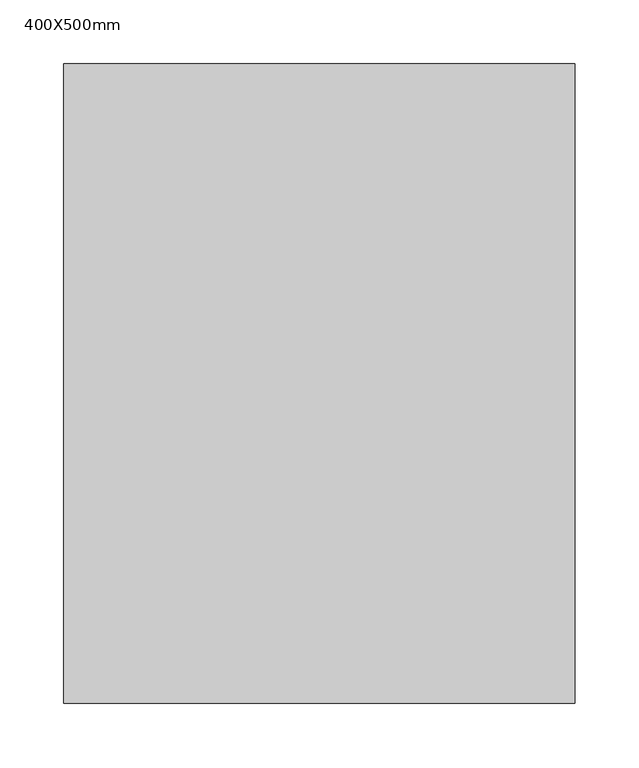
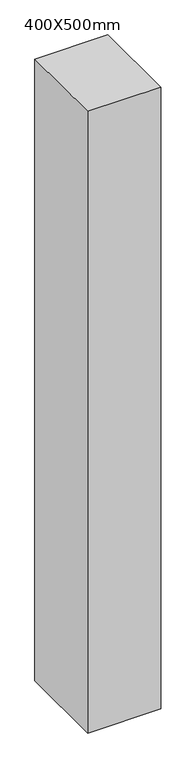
"""IFC4 building model written with IfcOpenShell, lengths in millimetres: column geometry, 混凝土 - 矩形 - 柱 : 400X500mm."""

import ifcopenshell
import ifcopenshell.guid

model = None  # the IFC model being written
_history = None  # IfcOwnerHistory: only IFC2X3 demands one
_inside = {}  # id of a spatial element -> (the spatial element, [elements in it])
_under = {}  # id of a project, library or spatial element -> (it, [spatial elements below it])
_declared = {}  # id of a project -> (the project, [libraries it declares])
_typed = {}  # id of a type object -> (the type object, [elements of that type])
_made_of = {}  # id of a material, layer set ... -> (it, [elements and type objects made of it])


def new_model(schema):
    """Start an empty IFC model of exactly this schema.

    Asked for "IFC4X3", IfcOpenShell would pick the latest addendum, in which some entities
    have other attributes; the version numbers below select the first issue.
    IFC2X3 requires an IfcOwnerHistory on every rooted entity: one is made here for all.
    """
    global model, _history
    if schema == "IFC4X3":
        model = ifcopenshell.file(schema_version=(4, 3, 0, 0))
    else:
        model = ifcopenshell.file(schema=schema)
    _inside.clear()
    _under.clear()
    _declared.clear()
    _typed.clear()
    _made_of.clear()
    _history = None
    if model.schema == "IFC2X3":
        org = make("IfcOrganization", Name="unknown")
        user = make(
            "IfcPersonAndOrganization",
            ThePerson=make("IfcPerson", FamilyName="unknown"),
            TheOrganization=org,
        )
        app = make(
            "IfcApplication",
            ApplicationDeveloper=org,
            Version="unknown",
            ApplicationFullName="unknown",
            ApplicationIdentifier="unknown",
        )
        _history = make(
            "IfcOwnerHistory",
            OwningUser=user,
            OwningApplication=app,
            ChangeAction="ADDED",
            CreationDate=0,
        )
    return model


def make(cls, **values):
    """One entity of the class cls with the attributes given. An attribute that is None is left unset."""
    return model.create_entity(
        cls, **{name: value for name, value in values.items() if value is not None}
    )


def rooted(cls, **values):
    """An entity with a GlobalId (a new one), such as an element, a storey or a relation."""
    return make(cls, GlobalId=ifcopenshell.guid.new(), OwnerHistory=_history, **values)


def si_unit(unit_type, name, prefix=None):
    """IfcSIUnit, for example si_unit("LENGTHUNIT", "METRE", prefix="MILLI")."""
    return make("IfcSIUnit", UnitType=unit_type, Prefix=prefix, Name=name)


def assignment(units):
    """IfcUnitAssignment: the units of a project."""
    return None if units is None else make("IfcUnitAssignment", Units=units)


def point(xyz):
    """IfcCartesianPoint."""
    return None if xyz is None else make("IfcCartesianPoint", Coordinates=xyz)


def direction(xyz):
    """IfcDirection."""
    return None if xyz is None else make("IfcDirection", DirectionRatios=xyz)


def frame(location, z_axis=None, x_axis=None):
    """IfcAxis2Placement3D, a coordinate frame: its origin and axes. An axis left out is left unset."""
    return make(
        "IfcAxis2Placement3D",
        Location=point(location),
        Axis=direction(z_axis),
        RefDirection=direction(x_axis),
    )


def origin():
    """The frame at (0, 0, 0) with its axes left unset."""
    return frame((0.0, 0.0, 0.0))


def origin_with_axes():
    """The frame at (0, 0, 0) with the z axis (0, 0, 1) and the x axis (1, 0, 0) written out."""
    return frame((0.0, 0.0, 0.0), z_axis=(0.0, 0.0, 1.0), x_axis=(1.0, 0.0, 0.0))


def place(relative_to, where):
    """IfcLocalPlacement: puts the frame where relative to a parent placement (None: the world)."""
    return make(
        "IfcLocalPlacement", PlacementRelTo=relative_to, RelativePlacement=where
    )


def context(
    kind, dimensions, precision=None, world=None, true_north=None, identifier=None
):
    """IfcGeometricRepresentationContext, for example the 3D "Model" context."""
    return make(
        "IfcGeometricRepresentationContext",
        ContextIdentifier=identifier,
        ContextType=kind,
        CoordinateSpaceDimension=dimensions,
        Precision=precision,
        WorldCoordinateSystem=world,
        TrueNorth=true_north,
    )


def project(units=None, contexts=None):
    """IfcProject with its units and contexts."""
    return rooted(
        "IfcProject",
        Name="project",
        RepresentationContexts=contexts,
        UnitsInContext=assignment(units),
    )


def spatial(cls, under=None, at=None, **own):
    """A site, building, storey or space (cls), placed at a placement, below another one or the project."""
    s = rooted(cls, ObjectPlacement=at, **own)
    if under is not None:
        _under.setdefault(under.id(), (under, []))[1].append(s)
    return s


def polyline(points):
    """IfcPolyline through the points."""
    return make("IfcPolyline", Points=[point(p) for p in points])


def outline(outer, holes=None, kind="AREA"):
    """IfcArbitraryClosedProfileDef: a profile drawn as a closed curve; with holes, ...WithVoids."""
    if holes is None:
        return make("IfcArbitraryClosedProfileDef", ProfileType=kind, OuterCurve=outer)
    return make(
        "IfcArbitraryProfileDefWithVoids",
        ProfileType=kind,
        OuterCurve=outer,
        InnerCurves=holes,
    )


def extrude(swept, where, along, depth):
    """IfcExtrudedAreaSolid: the profile swept, set in the frame where, extruded along a direction by depth."""
    return make(
        "IfcExtrudedAreaSolid",
        SweptArea=swept,
        Position=where,
        ExtrudedDirection=direction(along),
        Depth=depth,
    )


def shape(context_of_items, identifier, shape_type, items):
    """IfcShapeRepresentation: the items that make up one representation, for example the "Body"."""
    return make(
        "IfcShapeRepresentation",
        ContextOfItems=context_of_items,
        RepresentationIdentifier=identifier,
        RepresentationType=shape_type,
        Items=items,
    )


def source(mapping_origin, context_of_items, identifier, shape_type, items):
    """IfcRepresentationMap: a shape defined once, which mapped items show again and again."""
    return make(
        "IfcRepresentationMap",
        MappingOrigin=mapping_origin,
        MappedRepresentation=shape(context_of_items, identifier, shape_type, items),
    )


def transform(
    local_origin,
    x_axis=None,
    y_axis=None,
    z_axis=None,
    scale=None,
    scale2=None,
    scale3=None,
    uniform=True,
):
    """IfcCartesianTransformationOperator3D, or its non-uniform kind. x_axis, y_axis, z_axis: its Axis1, 2, 3."""
    if uniform:
        return make(
            "IfcCartesianTransformationOperator3D",
            Axis1=direction(x_axis),
            Axis2=direction(y_axis),
            LocalOrigin=point(local_origin),
            Scale=scale,
            Axis3=direction(z_axis),
        )
    return make(
        "IfcCartesianTransformationOperator3DnonUniform",
        Axis1=direction(x_axis),
        Axis2=direction(y_axis),
        LocalOrigin=point(local_origin),
        Scale=scale,
        Axis3=direction(z_axis),
        Scale2=scale2,
        Scale3=scale3,
    )


def mapped(mapping_source, mapping_target):
    """IfcMappedItem: shows the shape of a source again, moved by a transform."""
    return make(
        "IfcMappedItem", MappingSource=mapping_source, MappingTarget=mapping_target
    )


def made_of(thing, what):
    """Note that an element or type object is made of a material, layer set ...; save() writes the relation."""
    if what is not None:
        _made_of.setdefault(what.id(), (what, []))[1].append(thing)
    return thing


def element(
    cls,
    number,
    at=None,
    inside=None,
    cuts=None,
    type_object=None,
    material=None,
    context=None,
    identifier="Body",
    shape_type=None,
    held_by="IfcProductDefinitionShape",
    body=None,
    shapes=None,
    **own,
):
    """One element of the class cls, such as IfcWall. Its Tag is "e" and its number.

    at: its placement. inside: the storey or other place that contains it. cuts: it is an
    opening in that element (IfcRelVoidsElement). A single representation is given by context,
    identifier, shape_type and body (its items); several are given by shapes. held_by: the class
    of the entity that holds the representations. save() writes the other relations.
    """
    e = rooted(cls, Tag="e%d" % number, ObjectPlacement=at, **own)
    if body is not None:
        shapes = [shape(context, identifier, shape_type, body)]
    if shapes is not None:
        e.Representation = make(held_by, Representations=shapes)
    if inside is not None:
        _inside.setdefault(inside.id(), (inside, []))[1].append(e)
    if cuts is not None:
        rooted(
            "IfcRelVoidsElement", RelatingBuildingElement=cuts, RelatedOpeningElement=e
        )
    if type_object is not None:
        _typed.setdefault(type_object.id(), (type_object, []))[1].append(e)
    return made_of(e, material)


def aggregate(whole, parts):
    """IfcRelAggregates: a whole, such as a stair, and the parts it consists of."""
    return rooted("IfcRelAggregates", RelatingObject=whole, RelatedObjects=parts)


def save(model, path):
    """Write the relations noted so far, then the file.

    IfcRelAggregates (storeys below a building ...), IfcRelContainedInSpatialStructure (elements
    in a storey), IfcRelDefinesByType, IfcRelAssociatesMaterial and IfcRelDeclares: one each for
    every whole, place, type object, material and project.
    """
    for whole, parts in _under.values():
        aggregate(whole, parts)
    for where, things in _inside.values():
        rooted(
            "IfcRelContainedInSpatialStructure",
            RelatedElements=things,
            RelatingStructure=where,
        )
    for kind, things in _typed.values():
        rooted("IfcRelDefinesByType", RelatedObjects=things, RelatingType=kind)
    for what, things in _made_of.values():
        rooted("IfcRelAssociatesMaterial", RelatedObjects=things, RelatingMaterial=what)
    for by, libraries in _declared.values():
        rooted("IfcRelDeclares", RelatingContext=by, RelatedDefinitions=libraries)
    model.write(path)


def column_400x500mm_c44cc8ed(model_context):
    return source(origin(), model_context, "Body", "SweptSolid", [
        extrude(outline(polyline([(200.0, 250.0), (200.0, -250.0), (-200.0, -250.0), (-200.0, 250.0), (200.0, 250.0)])), origin_with_axes(), (0.0, 0.0, 1.0), 3600.0),
    ])


if __name__ == "__main__":
    model = new_model("IFC4")
    model_context = context("Model", 3, world=origin())
    ifc_project = project(units=[si_unit("LENGTHUNIT", "METRE", prefix="MILLI")], contexts=[model_context])
    site = spatial("IfcSite", under=ifc_project)
    building = spatial("IfcBuilding", under=site)
    placement = place(None, origin())
    column_400x500mm_shape = column_400x500mm_c44cc8ed(model_context)
    element("IfcColumn", 1, ObjectType="混凝土 - 矩形 - 柱 : 400X500mm", at=placement, inside=building, context=model_context, shape_type="MappedRepresentation", body=[
        mapped(column_400x500mm_shape, transform((0.0, 0.0, 0.0), x_axis=(1.0, 0.0, 0.0), y_axis=(0.0, 1.0, 0.0), z_axis=(0.0, 0.0, 1.0))),
    ])
    save(model, "model.ifc")
